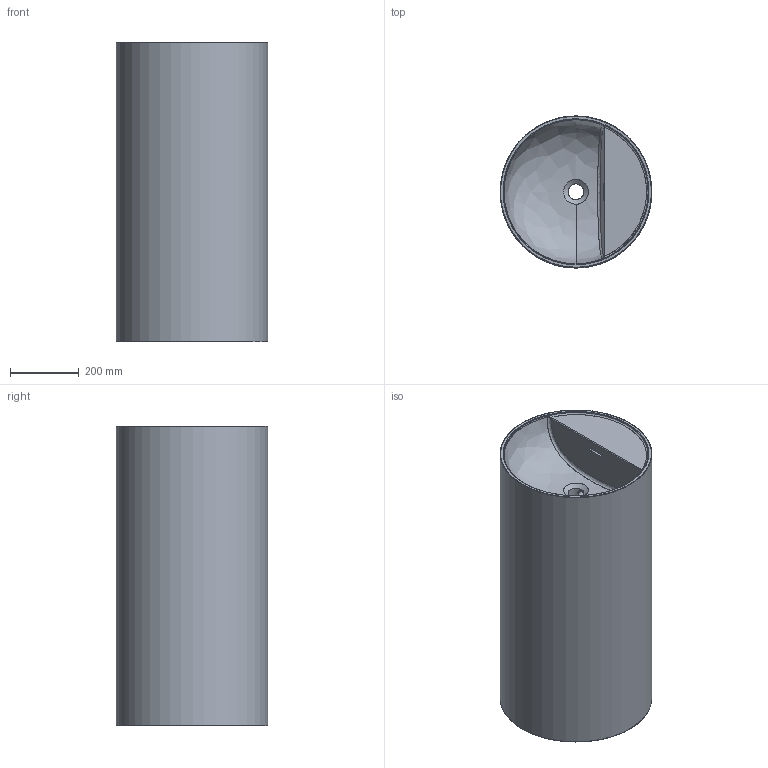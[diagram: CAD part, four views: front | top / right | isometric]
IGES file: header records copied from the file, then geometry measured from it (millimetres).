
Global section: file name: \\Archi-NAS\Comune\X GIOVANNI\SCHEDE PRODOTTO\LAVABI\FREESTANDING\TOWER STEP\3D\TOWER STEP.igs; native system: Rhinoceros ( Jan 17 2018 ); preprocessor: Trout Lake IGES 012 Jan 17 2018; date: 230619.093354; units: millimetre
Bounding box: 439.85 x 440 x 870 mm (x, y, z)
Surface area: 2707868.2 mm2 (no closed solid volume)
Topology: 0 solids, 0 shells, 234 faces, 1459 edges, 1421 vertices
Faces by surface type: bspline 234
